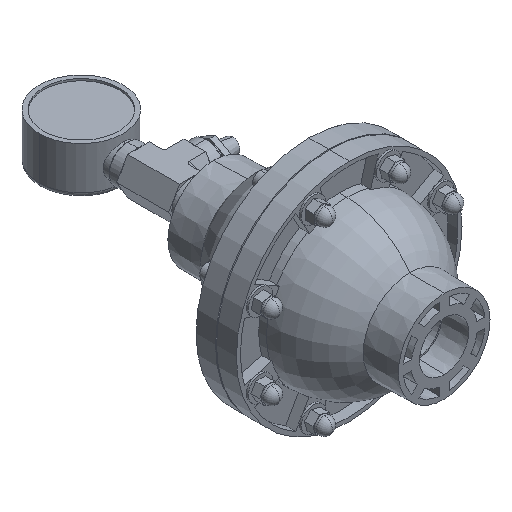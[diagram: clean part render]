
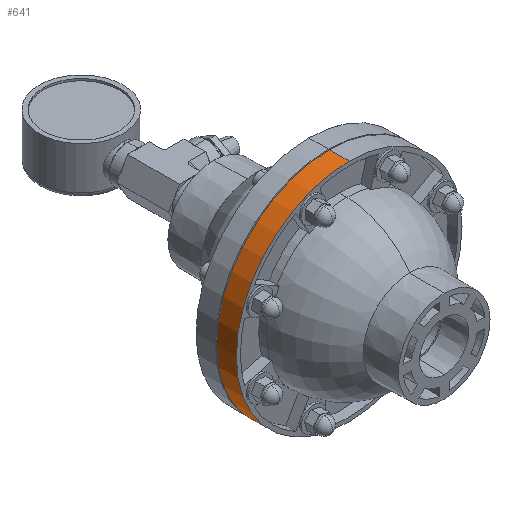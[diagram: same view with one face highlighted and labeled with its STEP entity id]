
A CAD part, isometric view. The second image highlights one B-rep face of the part: STEP entity #641.
In plain terms, the highlighted cylindrical face has radius 72.263 mm (diameter 144.526 mm), a partial arc.
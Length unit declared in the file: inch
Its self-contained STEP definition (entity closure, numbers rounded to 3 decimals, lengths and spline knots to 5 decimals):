
#27 = AXIS2_PLACEMENT_3D ( 'NONE', #4764, #11160, #3531 ) ;
#543 = ORIENTED_EDGE ( 'NONE', *, *, #16267, .T. ) ;
#641 = ADVANCED_FACE ( 'NONE', ( #4104 ), #3711, .T. ) ;
#1754 = VECTOR ( 'NONE', #3588, 39.37008 ) ;
#2383 = ORIENTED_EDGE ( 'NONE', *, *, #15394, .T. ) ;
#3297 = VERTEX_POINT ( 'NONE', #8631 ) ;
#3499 = DIRECTION ( 'NONE',  ( 0., 1., 0. ) ) ;
#3531 = DIRECTION ( 'NONE',  ( 0., 0., 1. ) ) ;
#3588 = DIRECTION ( 'NONE',  ( 0., 1., 0. ) ) ;
#3711 = CYLINDRICAL_SURFACE ( 'NONE', #27, 2.845 ) ;
#3803 = EDGE_CURVE ( 'NONE', #9040, #15757, #6638, .T. ) ;
#4104 = FACE_OUTER_BOUND ( 'NONE', #14106, .T. ) ;
#4284 = CARTESIAN_POINT ( 'NONE',  ( 0., -0.52, 0. ) ) ;
#4361 = CARTESIAN_POINT ( 'NONE',  ( 0., -0.02, 2.845 ) ) ;
#4764 = CARTESIAN_POINT ( 'NONE',  ( 0., -0.52, 0. ) ) ;
#5140 = CIRCLE ( 'NONE', #5264, 2.845 ) ;
#5264 = AXIS2_PLACEMENT_3D ( 'NONE', #4284, #13148, #5557 ) ;
#5557 = DIRECTION ( 'NONE',  ( 0., 0., 1. ) ) ;
#5714 = VERTEX_POINT ( 'NONE', #6156 ) ;
#6156 = CARTESIAN_POINT ( 'NONE',  ( 0., -0.52, 2.845 ) ) ;
#6638 = CIRCLE ( 'NONE', #14847, 2.845 ) ;
#7046 = DIRECTION ( 'NONE',  ( 0., 1., 0. ) ) ;
#7887 = ORIENTED_EDGE ( 'NONE', *, *, #8364, .F. ) ;
#8364 = EDGE_CURVE ( 'NONE', #3297, #9040, #8570, .T. ) ;
#8570 = LINE ( 'NONE', #10881, #8967 ) ;
#8631 = CARTESIAN_POINT ( 'NONE',  ( 0., -0.52, -2.845 ) ) ;
#8800 = CARTESIAN_POINT ( 'NONE',  ( 0., -0.02, -2.845 ) ) ;
#8933 = ORIENTED_EDGE ( 'NONE', *, *, #3803, .F. ) ;
#8967 = VECTOR ( 'NONE', #7046, 39.37008 ) ;
#9040 = VERTEX_POINT ( 'NONE', #8800 ) ;
#10881 = CARTESIAN_POINT ( 'NONE',  ( 0., -0.52, -2.845 ) ) ;
#11126 = CARTESIAN_POINT ( 'NONE',  ( 0., -0.02, 0. ) ) ;
#11160 = DIRECTION ( 'NONE',  ( 0., 1., 0. ) ) ;
#12393 = DIRECTION ( 'NONE',  ( 0., 0., 1. ) ) ;
#13148 = DIRECTION ( 'NONE',  ( 0., 1., 0. ) ) ;
#14106 = EDGE_LOOP ( 'NONE', ( #7887, #543, #2383, #8933 ) ) ;
#14847 = AXIS2_PLACEMENT_3D ( 'NONE', #11126, #3499, #12393 ) ;
#15267 = LINE ( 'NONE', #16260, #1754 ) ;
#15394 = EDGE_CURVE ( 'NONE', #5714, #15757, #15267, .T. ) ;
#15757 = VERTEX_POINT ( 'NONE', #4361 ) ;
#16260 = CARTESIAN_POINT ( 'NONE',  ( 0., -0.52, 2.845 ) ) ;
#16267 = EDGE_CURVE ( 'NONE', #3297, #5714, #5140, .T. ) ;
